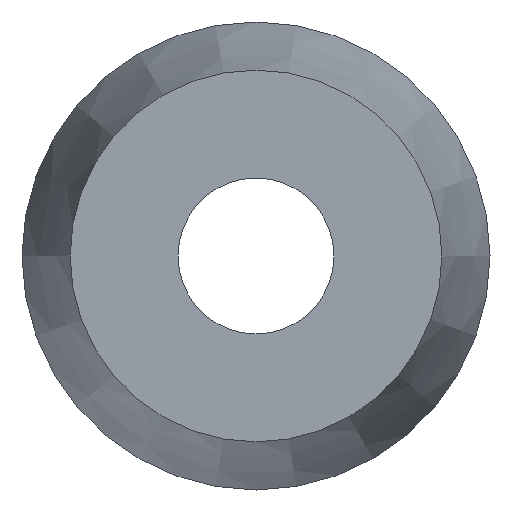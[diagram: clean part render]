
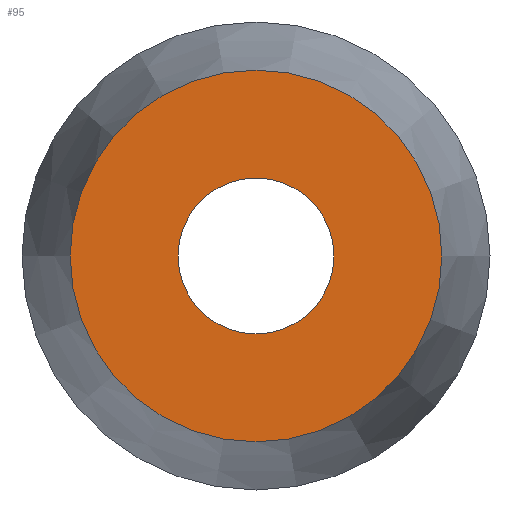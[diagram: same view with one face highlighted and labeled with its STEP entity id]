
A CAD part, left-side view. The second image highlights one B-rep face of the part: STEP entity #95.
In plain terms, the highlighted planar face has unit normal (-1, 0, 0).
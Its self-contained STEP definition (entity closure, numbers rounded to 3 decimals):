
#68=CARTESIAN_POINT('',(0.,1.691,0.0));
#69=DIRECTION('',(-1.0,0.0,0.0));
#70=DIRECTION('',(0.0,0.0,1.0));
#71=AXIS2_PLACEMENT_3D('',#68,#69,#70);
#72=PLANE('',#71);
#73=CARTESIAN_POINT('',(0.,2.383,0.0));
#74=VERTEX_POINT('',#73);
#75=CARTESIAN_POINT('',(0.,0.0,0.0));
#76=DIRECTION('',(1.0,0.0,0.0));
#77=DIRECTION('',(0.0,1.0,0.0));
#78=AXIS2_PLACEMENT_3D('',#75,#76,#77);
#79=CIRCLE('',#78,2.383);
#80=EDGE_CURVE('',#74,#74,#79,.T.);
#81=ORIENTED_EDGE('',*,*,#80,.F.);
#82=EDGE_LOOP('',(#81));
#83=FACE_OUTER_BOUND('',#82,.T.);
#84=CARTESIAN_POINT('',(0.0,1.,0.0));
#85=VERTEX_POINT('',#84);
#86=CARTESIAN_POINT('',(0.0,0.0,0.0));
#87=DIRECTION('',(1.0,0.0,0.0));
#88=DIRECTION('',(0.0,1.0,0.0));
#89=AXIS2_PLACEMENT_3D('',#86,#87,#88);
#90=CIRCLE('',#89,1.);
#91=EDGE_CURVE('',#85,#85,#90,.T.);
#92=ORIENTED_EDGE('',*,*,#91,.T.);
#93=EDGE_LOOP('',(#92));
#94=FACE_BOUND('',#93,.T.);
#95=ADVANCED_FACE('',(#83,#94),#72,.T.);
